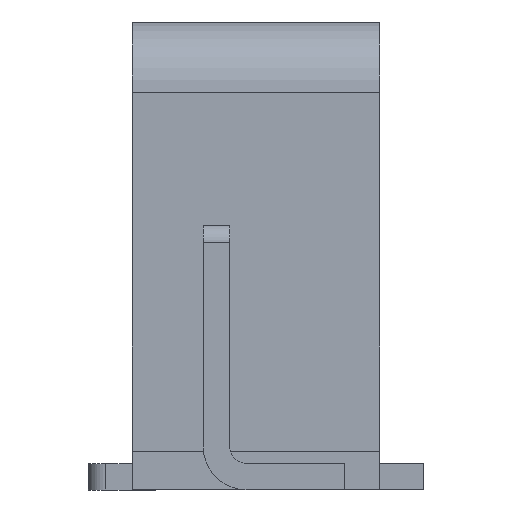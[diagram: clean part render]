
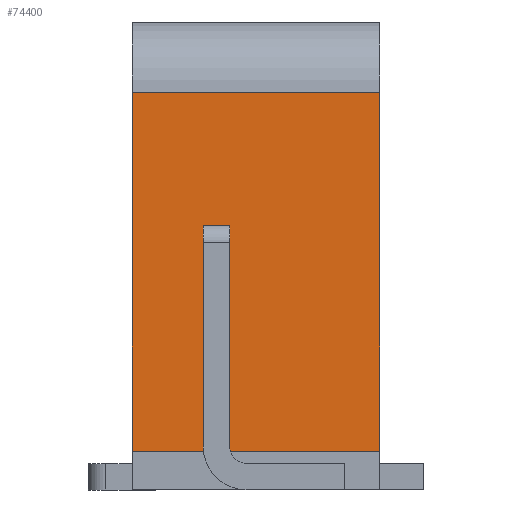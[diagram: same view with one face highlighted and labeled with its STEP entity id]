
A CAD part, left-side view. The second image highlights one B-rep face of the part: STEP entity #74400.
In plain terms, the highlighted planar face has unit normal (-1, 0, 0).
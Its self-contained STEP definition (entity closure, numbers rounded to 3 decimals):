
#6470=CARTESIAN_POINT('',(222.319,-48.486,1.4));
#6480=VERTEX_POINT('',#6470);
#6510=CARTESIAN_POINT('',(222.319,-48.486,0.))
;
#6520=DIRECTION('',(0.,0.,1.));
#6530=VECTOR('',#6520,1.);
#6540=LINE('',#6510,#6530);
#6550=CARTESIAN_POINT('',(222.319,-48.486,0.))
;
#6560=VERTEX_POINT('',#6550);
#6570=EDGE_CURVE('',#6560,#6480,#6540,.T.);
#71510=CARTESIAN_POINT('',(222.319,0.,0.));
#71520=DIRECTION('',(0.,1.,0.));
#71530=VECTOR('',#71520,1.);
#71540=LINE('',#71510,#71530);
#71550=CARTESIAN_POINT('',(222.319,-50.516,0.
));
#71560=VERTEX_POINT('',#71550);
#71570=EDGE_CURVE('',#71560,#6560,#71540,.T.);
#73710=CARTESIAN_POINT('',(222.319,-50.516,0.));
#73720=DIRECTION('',(0.,-0.,1.));
#73730=VECTOR('',#73720,1.);
#73740=LINE('',#73710,#73730);
#73750=CARTESIAN_POINT('',(222.319,-50.516,1.4));
#73760=VERTEX_POINT('',#73750);
#73770=EDGE_CURVE('',#71560,#73760,#73740,.T.);
#73900=CARTESIAN_POINT('',(222.319,-50.566,
1.435));
#73910=DIRECTION('',(-1.,0.,0.));
#73920=DIRECTION('',(0.,1.,0.));
#73930=AXIS2_PLACEMENT_3D('',#73900,#73910,#73920);
#73940=PLANE('',#73930);
#73950=CARTESIAN_POINT('',(222.319,0.,1.4));
#73960=DIRECTION('',(-0.,-1.,0.));
#73970=VECTOR('',#73960,1.);
#73980=LINE('',#73950,#73970);
#73990=EDGE_CURVE('',#6480,#73760,#73980,.T.);
#74000=ORIENTED_EDGE('',*,*,#73990,.F.);
#74010=ORIENTED_EDGE('',*,*,#73770,.T.);
#74020=ORIENTED_EDGE('',*,*,#71570,.F.);
#74030=ORIENTED_EDGE('',*,*,#6570,.F.);
#74040=EDGE_LOOP('',(#74030,#74020,#74010,#74000));
#74050=FACE_OUTER_BOUND('',#74040,.T.);
#74060=CARTESIAN_POINT('',(222.319,-49.236,0.));
#74070=DIRECTION('',(0.,0.,-1.));
#74080=VECTOR('',#74070,1.);
#74090=LINE('',#74060,#74080);
#74100=CARTESIAN_POINT('',(222.319,-49.236,
0.55));
#74110=VERTEX_POINT('',#74100);
#74120=CARTESIAN_POINT('',(222.319,-49.236,
0.4));
#74130=VERTEX_POINT('',#74120);
#74140=EDGE_CURVE('',#74110,#74130,#74090,.T.);
#74150=ORIENTED_EDGE('',*,*,#74140,.F.);
#74160=CARTESIAN_POINT('',(222.319,0.,0.4));
#74170=DIRECTION('',(0.,-1.,-0.));
#74180=VECTOR('',#74170,1.);
#74190=LINE('',#74160,#74180);
#74200=CARTESIAN_POINT('',(222.319,-50.316,
0.4));
#74210=VERTEX_POINT('',#74200);
#74220=EDGE_CURVE('',#74130,#74210,#74190,.T.);
#74230=ORIENTED_EDGE('',*,*,#74220,.F.);
#74240=CARTESIAN_POINT('',(222.319,-50.316,0.));
#74250=DIRECTION('',(0.,0.,1.));
#74260=VECTOR('',#74250,1.);
#74270=LINE('',#74240,#74260);
#74280=CARTESIAN_POINT('',(222.319,-50.316,
0.55));
#74290=VERTEX_POINT('',#74280);
#74300=EDGE_CURVE('',#74210,#74290,#74270,.T.);
#74310=ORIENTED_EDGE('',*,*,#74300,.F.);
#74320=CARTESIAN_POINT('',(222.319,0.,0.55));
#74330=DIRECTION('',(0.,1.,-0.));
#74340=VECTOR('',#74330,1.);
#74350=LINE('',#74320,#74340);
#74360=EDGE_CURVE('',#74290,#74110,#74350,.T.);
#74370=ORIENTED_EDGE('',*,*,#74360,.F.);
#74380=EDGE_LOOP('',(#74370,#74310,#74230,#74150));
#74390=FACE_BOUND('',#74380,.T.);
#74400=ADVANCED_FACE('',(#74050,#74390),#73940,.T.);
